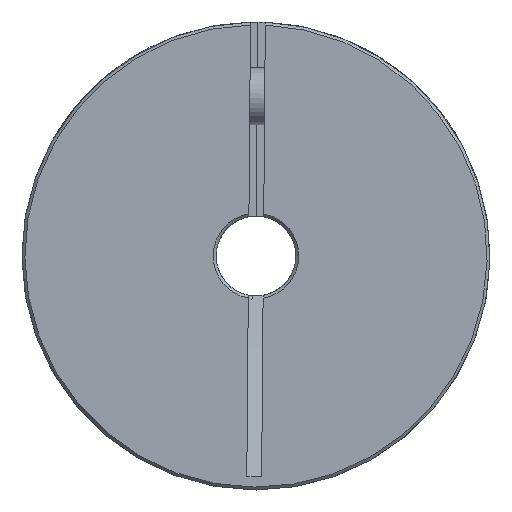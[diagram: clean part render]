
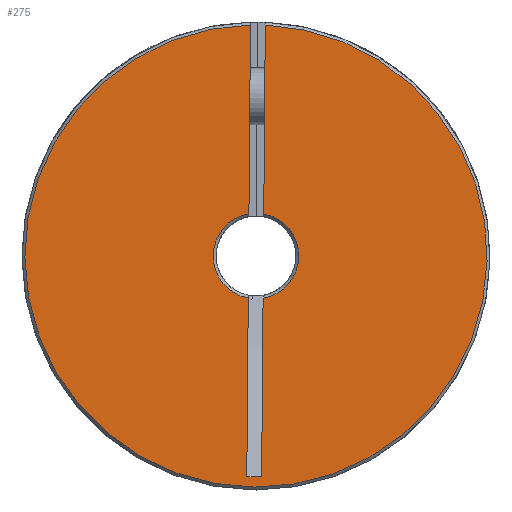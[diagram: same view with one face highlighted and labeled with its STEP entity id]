
A CAD part, left-side view. The second image highlights one B-rep face of the part: STEP entity #275.
In plain terms, the highlighted planar face has unit normal (-1, 0, 0).
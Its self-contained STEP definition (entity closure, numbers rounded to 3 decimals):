
#275 = ADVANCED_FACE( 'NONE', ( #566 ), #567, .F. );
#566 = FACE_OUTER_BOUND( '', #885, .T. );
#567 = PLANE( '', #886 );
#885 = EDGE_LOOP( '', ( #1352, #1353, #1354, #1355, #1356, #1357, #1358, #1359 ) );
#886 = AXIS2_PLACEMENT_3D( '', #1360, #1361, #1362 );
#1352 = ORIENTED_EDGE( '', *, *, #1685, .T. );
#1353 = ORIENTED_EDGE( '', *, *, #1702, .T. );
#1354 = ORIENTED_EDGE( '', *, *, #1753, .T. );
#1355 = ORIENTED_EDGE( '', *, *, #1733, .T. );
#1356 = ORIENTED_EDGE( '', *, *, #1661, .F. );
#1357 = ORIENTED_EDGE( '', *, *, #1722, .T. );
#1358 = ORIENTED_EDGE( '', *, *, #1754, .F. );
#1359 = ORIENTED_EDGE( '', *, *, #1755, .T. );
#1360 = CARTESIAN_POINT( '', ( 0., 7., 0. ) );
#1361 = DIRECTION( '', ( 1., 0., 0. ) );
#1362 = DIRECTION( '', ( 0., 1., 0. ) );
#1661 = EDGE_CURVE( 'NONE', #1913, #1915, #1916, .F. );
#1685 = EDGE_CURVE( 'NONE', #1952, #1950, #1953, .T. );
#1702 = EDGE_CURVE( 'NONE', #1950, #1977, #1979, .T. );
#1722 = EDGE_CURVE( 'NONE', #1913, #2004, #2006, .T. );
#1733 = EDGE_CURVE( 'NONE', #2021, #1915, #2022, .F. );
#1753 = EDGE_CURVE( 'NONE', #1977, #2021, #2048, .T. );
#1754 = EDGE_CURVE( 'NONE', #2049, #2004, #2050, .F. );
#1755 = EDGE_CURVE( 'NONE', #2049, #1952, #2051, .T. );
#1913 = VERTEX_POINT( 'NONE', #2299 );
#1915 = VERTEX_POINT( 'NONE', #2304 );
#1916 = LINE( '', #2305, #2306 );
#1950 = VERTEX_POINT( 'NONE', #2352 );
#1952 = VERTEX_POINT( 'NONE', #2357 );
#1953 = LINE( '', #2358, #2359 );
#1977 = VERTEX_POINT( 'NONE', #2387 );
#1979 = CIRCLE( '', #2392, 7.5 );
#2004 = VERTEX_POINT( 'NONE', #2423 );
#2006 = CIRCLE( '', #2428, 7.5 );
#2021 = VERTEX_POINT( 'NONE', #2445 );
#2022 = CIRCLE( '', #2446, 40.5 );
#2048 = LINE( '', #2475, #2476 );
#2049 = VERTEX_POINT( 'NONE', #2477 );
#2050 = LINE( '', #2478, #2479 );
#2051 = LINE( '', #2480, #2481 );
#2299 = CARTESIAN_POINT( '', ( 0., -1.3, 7.386 ) );
#2304 = CARTESIAN_POINT( '', ( 0., -1.3, 40.479 ) );
#2305 = CARTESIAN_POINT( '', ( 0., -1.3, 11. ) );
#2306 = VECTOR( '', #2733, 1000. );
#2352 = CARTESIAN_POINT( '', ( 0., 1.3, -7.386 ) );
#2357 = CARTESIAN_POINT( '', ( 0., 1.3, -38.697 ) );
#2358 = CARTESIAN_POINT( '', ( 0., 1.3, 0. ) );
#2359 = VECTOR( '', #2767, 1000. );
#2387 = CARTESIAN_POINT( '', ( 0., 1.3, 7.386 ) );
#2392 = AXIS2_PLACEMENT_3D( '', #2790, #2791, #2792 );
#2423 = CARTESIAN_POINT( '', ( 0., -1.3, -7.386 ) );
#2428 = AXIS2_PLACEMENT_3D( '', #2814, #2815, #2816 );
#2445 = CARTESIAN_POINT( '', ( 0., 1.3, 40.479 ) );
#2446 = AXIS2_PLACEMENT_3D( '', #2831, #2832, #2833 );
#2475 = CARTESIAN_POINT( '', ( 0., 1.3, 0. ) );
#2476 = VECTOR( '', #2858, 1000. );
#2477 = CARTESIAN_POINT( '', ( 0., -1.3, -38.697 ) );
#2478 = CARTESIAN_POINT( '', ( 0., -1.3, 11. ) );
#2479 = VECTOR( '', #2859, 1000. );
#2480 = CARTESIAN_POINT( '', ( 0., -1.3, -38.697 ) );
#2481 = VECTOR( '', #2860, 1000. );
#2733 = DIRECTION( '', ( 0., 0., -1. ) );
#2767 = DIRECTION( '', ( 0., 0., 1. ) );
#2790 = CARTESIAN_POINT( '', ( 0., 0., 0. ) );
#2791 = DIRECTION( '', ( 1., 0., 0. ) );
#2792 = DIRECTION( '', ( 0., 0., -1. ) );
#2814 = CARTESIAN_POINT( '', ( 0., 0., 0. ) );
#2815 = DIRECTION( '', ( 1., 0., 0. ) );
#2816 = DIRECTION( '', ( 0., 0., -1. ) );
#2831 = CARTESIAN_POINT( '', ( 0., 0., 0. ) );
#2832 = DIRECTION( '', ( 1., 0., 0. ) );
#2833 = DIRECTION( '', ( 0., 0., -1. ) );
#2858 = DIRECTION( '', ( 0., 0., 1. ) );
#2859 = DIRECTION( '', ( 0., 0., -1. ) );
#2860 = DIRECTION( '', ( 0., 1., 0. ) );
